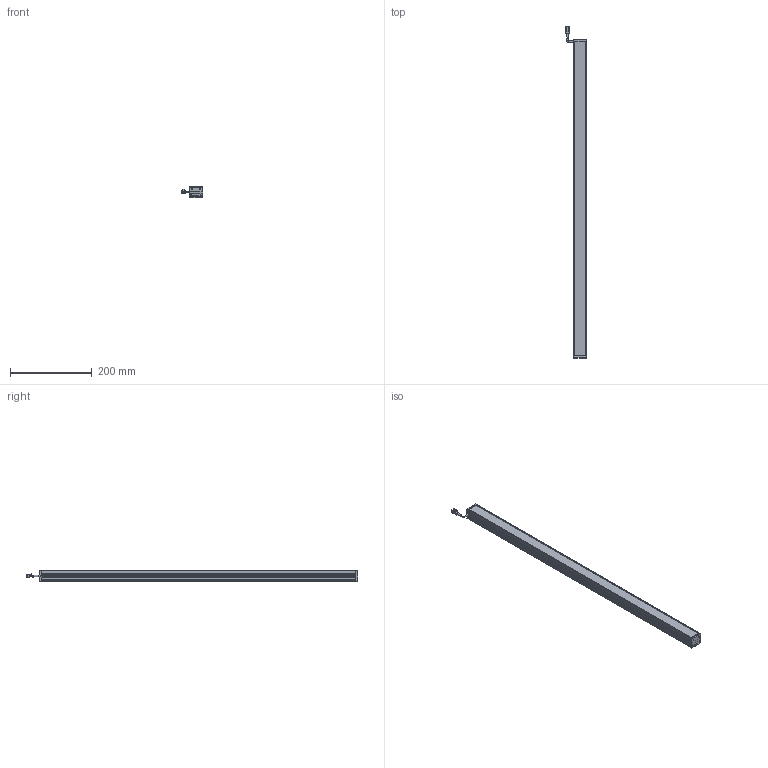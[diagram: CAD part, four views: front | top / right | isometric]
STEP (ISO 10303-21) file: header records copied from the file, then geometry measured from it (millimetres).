
FILE_DESCRIPTION(/* description */ (''),/* implementation_level */ '2;1');
FILE_NAME(/* name */ '',/* time_stamp */ '2024-02-21T10:53:31+08:00',/* author */ (''),/* organization */ (''),/* preprocessor_version */ 'ST-DEVELOPER v20',/* originating_system */ 'Autodesk Translation Framework v12.20.1.177',/* authorisation */ '');
FILE_SCHEMA (('AUTOMOTIVE_DESIGN { 1 0 10303 214 3 1 1 }'));
Length unit declared in the file: millimetre
Products named in the file (6): L30; 3拼母头 v2; 主体; 漫射板; 挡头 (1); 挡头
Assembly tree (5 placements, depth 2):
  L30
    3拼母头 v2
    主体
    漫射板
    挡头 (1)
    挡头
Bounding box: 52 x 814 x 27 mm (x, y, z)
Volume: 271049.1 mm3; surface area: 254602.9 mm2
Topology: 6 solids, 6 shells, 416 faces, 1179 edges, 784 vertices
Faces by surface type: plane 300, cylinder 111, cone 4, torus 1
Full cylindrical faces by diameter (mm): 2.529 x4, 3.8 x3
Entity records: 13619 total; most frequent: CARTESIAN_POINT 2391, ORIENTED_EDGE 2350, DIRECTION 2265, EDGE_CURVE 1175, LINE 937, VECTOR 937, VERTEX_POINT 784, AXIS2_PLACEMENT_3D 664
